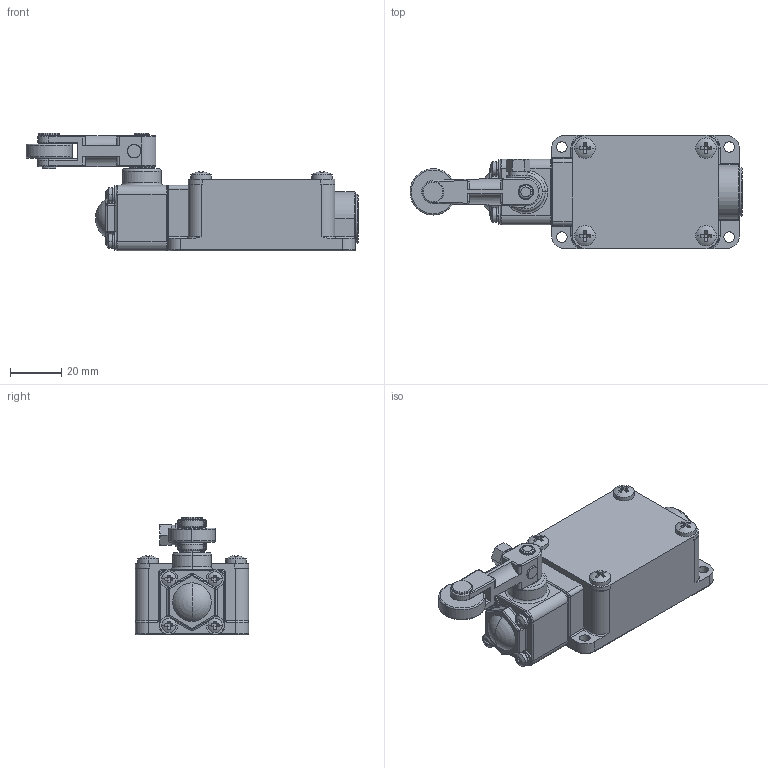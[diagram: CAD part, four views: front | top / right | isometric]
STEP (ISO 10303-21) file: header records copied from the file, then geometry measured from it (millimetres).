
FILE_DESCRIPTION((''),'2;1');
FILE_NAME('654','2025-05-06T',('qinxiong.ji'),(''),'PRO/ENGINEER BY PARAMETRIC TECHNOLOGY CORPORATION, 2015440','PRO/ENGINEER BY PARAMETRIC TECHNOLOGY CORPORATION, 2015440','');
FILE_SCHEMA(('CONFIG_CONTROL_DESIGN'));
Length unit declared in the file: millimetre
Products named in the file (1): 654
Bounding box: 129 x 44 x 45.8 mm (x, y, z)
Volume: 98856.6 mm3; surface area: 20376.9 mm2
Topology: 3 solids, 3 shells, 578 faces, 1392 edges, 844 vertices
Faces by surface type: plane 275, cylinder 184, torus 69, sphere 24, cone 20, bspline 6
Entity records: 18299 total; most frequent: CARTESIAN_POINT 4592, DIRECTION 3037, ORIENTED_EDGE 2776, EDGE_CURVE 1388, AXIS2_PLACEMENT_3D 1211, VERTEX_POINT 844, CIRCLE 639, EDGE_LOOP 624
